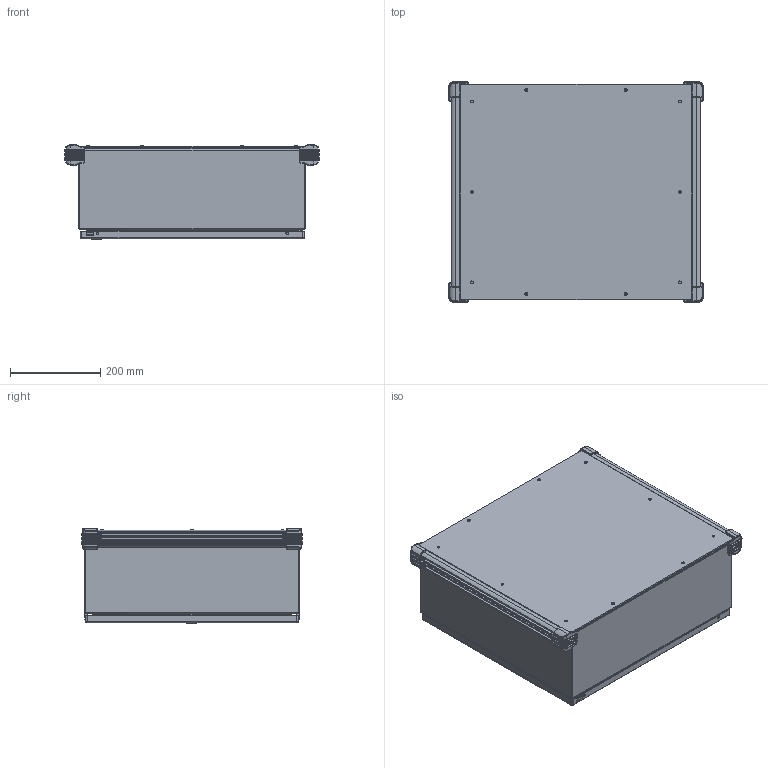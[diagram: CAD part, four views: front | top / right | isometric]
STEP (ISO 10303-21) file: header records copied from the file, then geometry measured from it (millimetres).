
FILE_DESCRIPTION (( 'STEP AP203' ), '1' );
FILE_NAME ('cp475018b.STEP', '2012-06-08T17:58:07', ( 'User' ), ( 'Pentair Inc' ), 'SwSTEP 2.0', 'SolidWorks 2010', '' );
FILE_SCHEMA (( 'CONFIG_CONTROL_DESIGN' ));
Length unit declared in the file: inch
Products named in the file (38): cp475018b; 89061130; 87789263_default; 99401225_Config-Drawing; 87938525_assy; 87938549_fip; 87938501; 87931362_87931362; 99401225; 87938564_87926013; 87921906_After Weld; 64101001; 64201001; 87541994_Installed Height; 87541995; 64202001; 64210001; 64203001; 87927840_87927840; 87932903; 64138001; 89061095; 87789223; 87541671_87541671; 87789176; 87789150; 87543027; 89076399; 89076193; 89056623; 87789742_ASSEMBLED; 89061402; 87792578; 87792576; 99416066; 87929507; 87929767; 87929769_Installed on Pin
Assembly tree (77 placements, depth 4):
  cp475018b
    87543027  x2
    99416066  x6
    87789176  x2
    87792578  x6
    87789150  x4
    87792576  x6
    89076399  x2
      89076193
      89056623
    87938525_assy
      87932903  x2
      87938549_fip
        87921906_After Weld  x4
        87938501
        87931362_87931362  x2
        99401225
        87938564_87926013
      64138001  x2
      64101001
        64201001
        64202001
        64203001
        64210001
        87541994_Installed Height
        87927840_87927840
        87541995
    89061130
      99401225_Config-Drawing  x3
      87789263_default
    89061095
      87541671_87541671  x10
      87789223
    87929507  x2
      87929767
      87929769_Installed on Pin
    87789742_ASSEMBLED
      89061402  x2
Bounding box: 564.31 x 488.87 x 209.3 mm (x, y, z)
Volume: 2802787.2 mm3; surface area: 2377284.4 mm2
Topology: 72 solids, 72 shells, 4366 faces, 11007 edges, 6766 vertices
Faces by surface type: plane 1777, cylinder 1425, bspline 444, torus 374, cone 294, sphere 52
Entity records: 68869 total; most frequent: CARTESIAN_POINT 21021, ORIENTED_EDGE 9156, DIRECTION 8613, EDGE_CURVE 4578, AXIS2_PLACEMENT_3D 3172, VERTEX_POINT 2832, LINE 2269, VECTOR 2269
